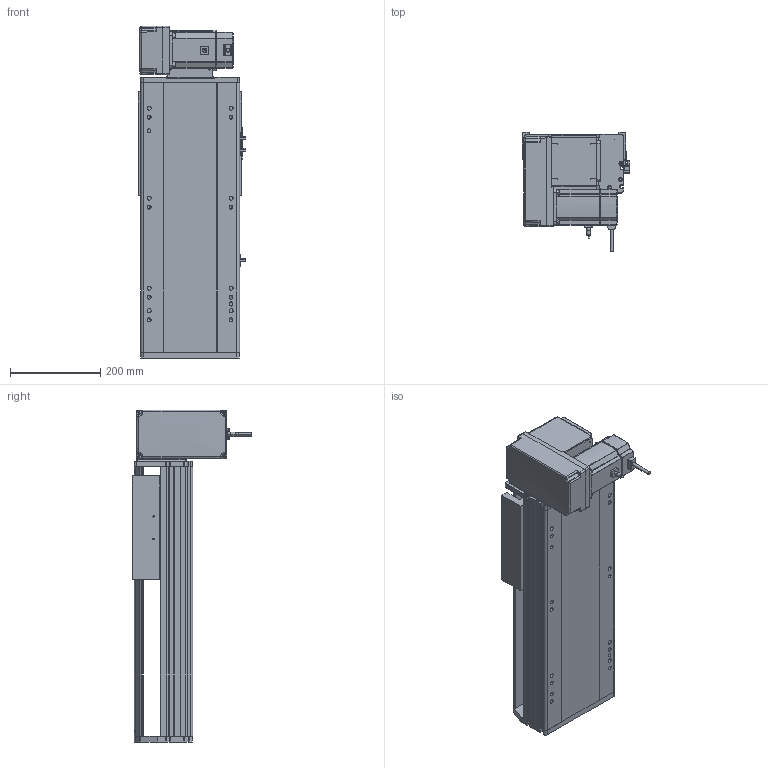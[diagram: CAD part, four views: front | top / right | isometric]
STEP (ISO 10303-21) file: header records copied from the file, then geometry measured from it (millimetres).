
FILE_DESCRIPTION (( 'STEP AP214' ), '1' );
FILE_NAME ('RTB22S-XX-250-LM-M75-C4.STEP', '2025-12-12T03:45:14', ( '' ), ( '' ), 'SwSTEP 2.0', 'SolidWorks 2018', '' );
FILE_SCHEMA (( 'AUTOMOTIVE_DESIGN' ));
Length unit declared in the file: millimetre
Products named in the file (14): RTB22S-XX-250-LM-M75-C4; RTB22S-GY-017P^RMP22S-LM-々湍釱蚾饜_RTB22S-XX-XX-LM-M75-C4; RTH22-GY-013外置感应片^RTB22S-XX-XX-LM-M75-C4; RTB22S-GY-014--々湍釱^RMP22S-LM-々湍釱蚾饜_RTB22S-XX-XX-LM-M75-C4; RTB22S-GY-018P^RMP22S-LM-々湍釱蚾饜_RTB22S-XX-XX-LM-M75-C4; RMP22S-LM-々湍釱蚾饜^RTB22S-XX-XX-LM-M75-C4; RTB22S-GY-008-M75--萇儂啣^RMP22S-LM-々湍釱蚾饜_RTB22S-XX-XX-LM-M75-C4; RTB22S-L-004賑釱^RTB22S-XX-XX-LM-M75-C4; RTB22S-GY-007奻裔^RTB22S-XX-XX-LM-M75-C4; RTB22S-L-011菁釱^RTB22S-XX-XX-LM-M75-C4; RTB22S-GY-001耜裔^RTB22S-XX-XX-LM-M75-C4; RTB22S-GY-005P^RMP22S-LM-々湍釱蚾饜_RTB22S-XX-XX-LM-M75-C4; 750W萇儂^RTB22S-XX-XX-LM-M75-C4; OMRON EE-SX672 传感器^RTB22S-XX-XX-LM-M75-C4
Assembly tree (16 placements, depth 3):
  RTB22S-XX-250-LM-M75-C4
    RTB22S-L-011菁釱^RTB22S-XX-XX-LM-M75-C4
    RTB22S-GY-001耜裔^RTB22S-XX-XX-LM-M75-C4
    750W萇儂^RTB22S-XX-XX-LM-M75-C4
    RTB22S-GY-007奻裔^RTB22S-XX-XX-LM-M75-C4
    RTB22S-L-004賑釱^RTB22S-XX-XX-LM-M75-C4
    RTH22-GY-013外置感应片^RTB22S-XX-XX-LM-M75-C4
    OMRON EE-SX672 传感器^RTB22S-XX-XX-LM-M75-C4  x3
    RMP22S-LM-々湍釱蚾饜^RTB22S-XX-XX-LM-M75-C4
      RTB22S-GY-014--々湍釱^RMP22S-LM-々湍釱蚾饜_RTB22S-XX-XX-LM-M75-C4
      RTB22S-GY-017P^RMP22S-LM-々湍釱蚾饜_RTB22S-XX-XX-LM-M75-C4  x2
      RTB22S-GY-005P^RMP22S-LM-々湍釱蚾饜_RTB22S-XX-XX-LM-M75-C4
      RTB22S-GY-008-M75--萇儂啣^RMP22S-LM-々湍釱蚾饜_RTB22S-XX-XX-LM-M75-C4
      RTB22S-GY-018P^RMP22S-LM-々湍釱蚾饜_RTB22S-XX-XX-LM-M75-C4
Bounding box: 238.5 x 264.7 x 737.5 mm (x, y, z)
Volume: 12547978.4 mm3; surface area: 1343717 mm2
Topology: 15 solids, 15 shells, 1911 faces, 5186 edges, 3332 vertices
Faces by surface type: plane 907, cylinder 574, bspline 296, cone 122, sphere 8, torus 4
Entity records: 50136 total; most frequent: CARTESIAN_POINT 14580, ORIENTED_EDGE 7192, DIRECTION 6850, EDGE_CURVE 3596, AXIS2_PLACEMENT_3D 2390, VERTEX_POINT 2336, LINE 2070, VECTOR 2070
